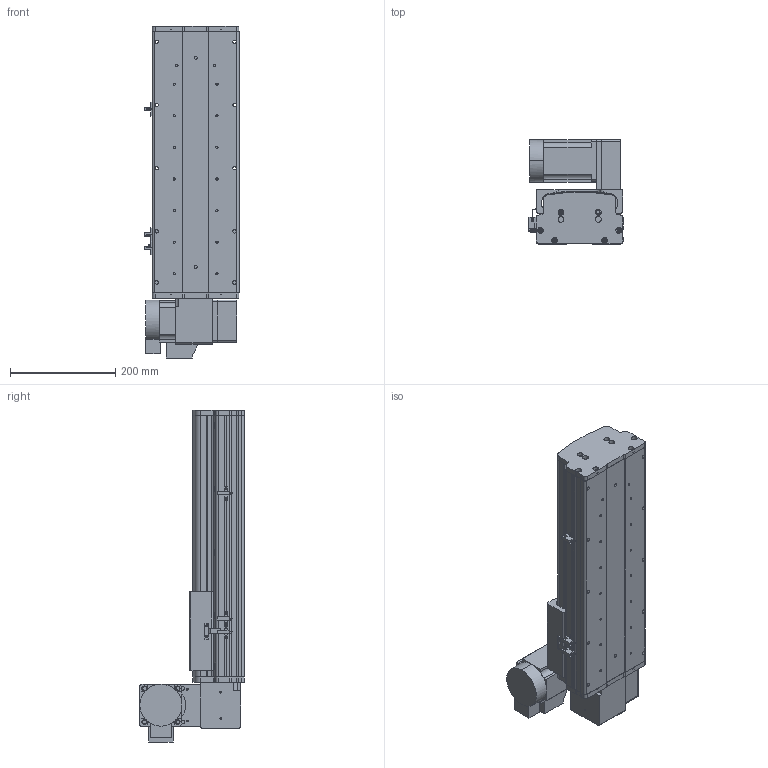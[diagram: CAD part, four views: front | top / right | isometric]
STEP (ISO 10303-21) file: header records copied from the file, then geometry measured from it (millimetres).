
FILE_DESCRIPTION (( 'STEP AP214' ), '1' );
FILE_NAME ('KSD165B-S250-MRU-CM .STEP', '2017-10-17T01:57:27', ( '微软用户' ), ( '微软中国' ), 'SwSTEP 2.0', 'SolidWorks 2014', '' );
FILE_SCHEMA (( 'AUTOMOTIVE_DESIGN' ));
Length unit declared in the file: millimetre
Products named in the file (17): KSD165耀郪-ヶ傷啣1-肮祭湍; KSD165模组-后端板1-同步带; KSD165模组-同步带滑动座-最新版; KSD165B-S250-MRU-CM ; 130宽模组马达安装板连板上下折丝杆同步带; 130宽模组保护罩上下左右折-同步带; HTPA26S5M250-A-H8 750W萇儂蚚; HTPA26S5M250-A-H8 400W萇儂蚚 ; KSD165模组-同步带防尘盖1-250行程-最新版; KSD165模组同步带底板-250行程-最新; 拸秶雄ん750W侜督萇儂; 165宽马达安装板同步带右; U倰嫖萇假蚾璃; U倰嫖萇EEㄜSX672; 覜茼え68遵圉猾敕; KSD165模组-同步带-防撞垫2; KSD165模组同步带-防撞垫1
Assembly tree (20 placements, depth 2):
  KSD165B-S250-MRU-CM 
    KSD165模组-同步带滑动座-最新版
    KSD165模组-后端板1-同步带
    KSD165耀郪-ヶ傷啣1-肮祭湍
    KSD165模组同步带-防撞垫1
    KSD165模组-同步带-防撞垫2
    覜茼え68遵圉猾敕
    U倰嫖萇EEㄜSX672  x3
    U倰嫖萇假蚾璃  x3
    165宽马达安装板同步带右
    拸秶雄ん750W侜督萇儂
    KSD165模组同步带底板-250行程-最新
    KSD165模组-同步带防尘盖1-250行程-最新版
    HTPA26S5M250-A-H8 400W萇儂蚚 
    HTPA26S5M250-A-H8 750W萇儂蚚
    130宽模组保护罩上下左右折-同步带
    130宽模组马达安装板连板上下折丝杆同步带
Bounding box: 178.7 x 198 x 630.5 mm (x, y, z)
Volume: 4530701.6 mm3; surface area: 1044330.2 mm2
Topology: 21 solids, 21 shells, 1863 faces, 5244 edges, 3420 vertices
Faces by surface type: cylinder 1175, plane 576, cone 112
Entity records: 59540 total; most frequent: CARTESIAN_POINT 12220, DIRECTION 9864, ORIENTED_EDGE 9148, EDGE_CURVE 4574, AXIS2_PLACEMENT_3D 3854, VERTEX_POINT 3012, CIRCLE 2188, LINE 2156
